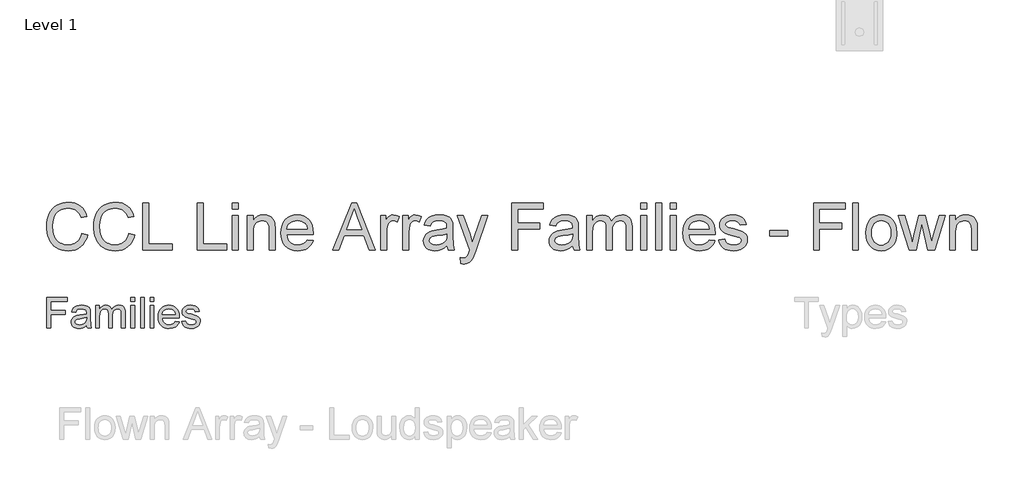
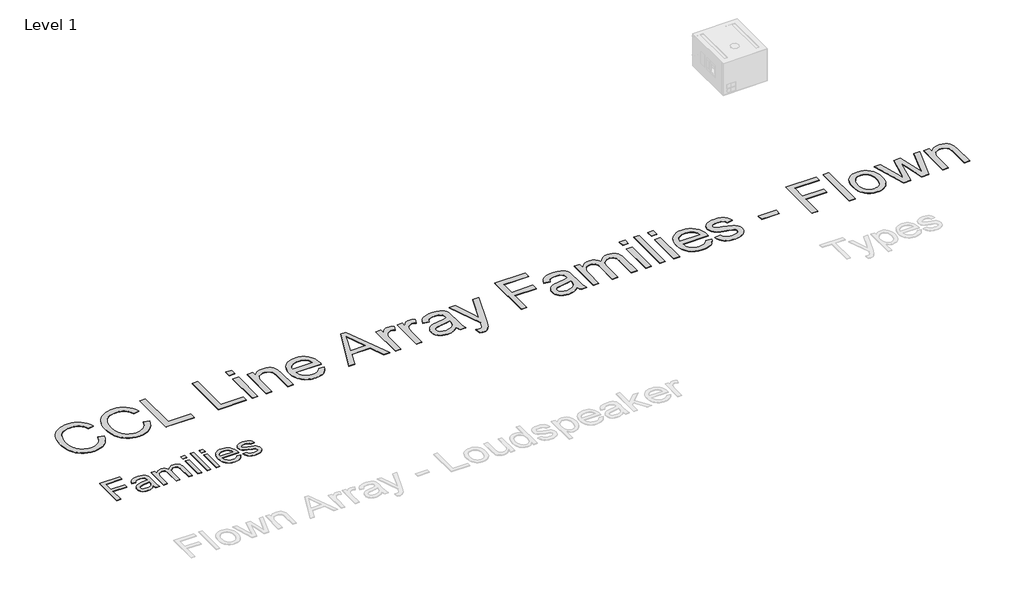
# One storey, part 21 of 31: 2 proxies.
"""IFC4 building model written with IfcOpenShell, lengths in millimetres."""

from ifc_helpers import new_model, si_unit, origin, origin_with_axes, place, context, project, spatial, polyline, outline, extrude, element, save

model = new_model("IFC4")

# Units and contexts
model_context = context("Model", 3, world=origin())
ifc_project = project(units=[si_unit("LENGTHUNIT", "METRE", prefix="MILLI")], contexts=[model_context])

# Site, building, storey
site = spatial("IfcSite", under=ifc_project)
building = spatial("IfcBuilding", under=site)
storey = spatial("IfcBuildingStorey", under=building, Name="Level 1", Elevation=0.0)

# Proxies
placement = place(None, origin())
element("IfcBuildingElementProxy", 1, Name="400mm Arial", ObjectType="400mm Arial", at=placement, inside=storey, context=model_context, shape_type="SweptSolid", body=[
    extrude(outline(polyline([(-21056.720891, 8089.9648601), (-21056.720891, 8481.7224359), (-20793.5087698, 8481.7224359), (-20793.5087698, 8432.7527389), (-21007.7511941, 8432.7527389), (-21007.7511941, 8316.4497086), (-20824.1148304, 8316.4497086), (-20824.1148304, 8267.4800117), (-21007.7511941, 8267.4800117), (-21007.7511941, 8089.9648601), (-21056.720891, 8089.9648601)])), origin_with_axes(), (0.0, 0.0, 1.0), 5.0),
    extrude(outline(polyline([(-20548.660285, 8126.6921329), (-20572.0571836, 8106.6308166), (-20596.1475009, 8093.5036859), (-20621.4811893, 8086.2586575), (-20648.6082016, 8083.843648), (-20670.4120309, 8085.2962404), (-20689.5318522, 8089.6540173), (-20705.9676654, 8096.916979), (-20719.7194706, 8107.0851253), (-20730.5780466, 8119.5128597), (-20738.3341723, 8133.5545855), (-20742.9878477, 8149.2103029), (-20744.5390729, 8166.4800117), (-20742.1957963, 8186.7804378), (-20735.1659668, 8205.2158071), (-20724.3223352, 8220.9970571), (-20710.5376524, 8233.3351253), (-20676.2493001, 8249.4033071), (-20633.879035, 8256.7678904), (-20583.8094327, 8264.5150495), (-20548.9472168, 8273.6012238), (-20548.660285, 8284.5046329), (-20552.0317338, 8306.359273), (-20562.1460804, 8320.658042), (-20584.7658721, 8331.2745192), (-20616.2805501, 8334.813345), (-20645.4519516, 8332.458113), (-20665.8241107, 8325.392417), (-20679.7163929, 8312.3250637), (-20689.4481638, 8291.9648601), (-20738.4178607, 8298.0860723), (-20729.9175056, 8324.8663753), (-20717.2327282, 8345.908042), (-20699.1799346, 8362.0001348), (-20674.5755312, 8373.9317162), (-20644.4835568, 8381.3202105), (-20609.9680501, 8383.783042), (-20576.8632916, 8381.6071423), (-20550.6209857, 8375.0794435), (-20530.8346458, 8365.2639842), (-20517.097785, 8353.2248033), (-20507.9876997, 8338.3402153), (-20502.0816865, 8319.9885344), (-20499.690588, 8277.1400495), (-20499.690588, 8216.2148601), (-20497.2038456, 8131.1395761), (-20487.4481638, 8089.9648601), (-20536.4178607, 8089.9648601), (-20544.2606638, 8106.9894814), (-20548.660285, 8126.6921329)]), holes=[polyline([(-20548.660285, 8224.6315268), (-20581.5618001, 8216.477881), (-20627.6621789, 8209.6154283), (-20669.7933342, 8201.6769814), (-20680.7565208, 8196.2491878), (-20688.8743001, 8188.7650495), (-20693.8956069, 8179.7984302), (-20695.5693759, 8169.9231935), (-20691.9229507, 8155.3614037), (-20680.9836751, 8143.4298223), (-20662.990659, 8135.4674643), (-20638.1830122, 8132.813345), (-20611.8809289, 8135.7424406), (-20588.6394516, 8144.5297276), (-20569.7975956, 8157.4775259), (-20556.6943759, 8172.8881556), (-20550.8840066, 8188.7650495), (-20548.9472168, 8210.7631556), (-20548.660285, 8224.6315268)])]), origin_with_axes(), (0.0, 0.0, 1.0), 5.0),
    extrude(outline(polyline([(-20432.3572547, 8089.9648601), (-20432.3572547, 8377.6618298), (-20383.3875577, 8377.6618298), (-20383.3875577, 8330.3180798), (-20368.658391, 8352.0651206), (-20349.720891, 8369.1016973), (-20327.2206543, 8380.1127058), (-20301.8032774, 8383.783042), (-20274.5686657, 8380.0409728), (-20252.7379365, 8368.8147654), (-20236.4306448, 8350.8456603), (-20225.7663456, 8326.874898), (-20207.9167954, 8351.772211), (-20187.5565918, 8369.556006), (-20164.6857348, 8380.226283), (-20139.3042244, 8383.783042), (-20119.7002057, 8382.3035498), (-20102.4932632, 8377.8650732), (-20087.683397, 8370.4676123), (-20075.2706069, 8360.111167), (-20065.4581365, 8346.6761824), (-20058.4492291, 8330.0431035), (-20054.2438846, 8310.2119305), (-20052.8421032, 8287.1826632), (-20052.8421032, 8089.9648601), (-20101.8118001, 8089.9648601), (-20101.8118001, 8266.1409965), (-20106.3548872, 8307.0287806), (-20112.7391202, 8318.30281), (-20122.8056448, 8327.1618298), (-20135.7534431, 8332.9004662), (-20150.7814971, 8334.813345), (-20177.3107348, 8329.9115931), (-20198.9382206, 8315.2063374), (-20207.3279874, 8303.9263303), (-20213.320678, 8289.6933166), (-20218.1148304, 8252.3682692), (-20218.1148304, 8089.9648601), (-20267.0845274, 8089.9648601), (-20267.0845274, 8271.5927011), (-20269.9179791, 8299.2816215), (-20278.4183342, 8319.032095), (-20293.3746552, 8330.8680325), (-20315.5760047, 8334.813345), (-20334.4417717, 8332.1831367), (-20351.8250577, 8324.2925117), (-20366.1716486, 8311.3327579), (-20375.9273304, 8293.4951632), (-20381.5225009, 8268.7472939), (-20383.3875577, 8235.0567162), (-20383.3875577, 8089.9648601), (-20432.3572547, 8089.9648601)])), origin_with_axes(), (0.0, 0.0, 1.0), 5.0),
    extrude(outline(polyline([(-19979.3875577, 8432.7527389), (-19979.3875577, 8481.7224359), (-19930.4178607, 8481.7224359), (-19930.4178607, 8432.7527389), (-19979.3875577, 8432.7527389)])), origin_with_axes(), (0.0, 0.0, 1.0), 5.0),
    extrude(outline(polyline([(-19979.3875577, 8089.9648601), (-19979.3875577, 8377.6618298), (-19930.4178607, 8377.6618298), (-19930.4178607, 8089.9648601), (-19979.3875577, 8089.9648601)])), origin_with_axes(), (0.0, 0.0, 1.0), 5.0),
    extrude(outline(polyline([(-19856.9633153, 8089.9648601), (-19856.9633153, 8481.7224359), (-19807.9936183, 8481.7224359), (-19807.9936183, 8089.9648601), (-19856.9633153, 8089.9648601)])), origin_with_axes(), (0.0, 0.0, 1.0), 5.0),
    extrude(outline(polyline([(-19734.5390729, 8432.7527389), (-19734.5390729, 8481.7224359), (-19685.5693759, 8481.7224359), (-19685.5693759, 8432.7527389), (-19734.5390729, 8432.7527389)])), origin_with_axes(), (0.0, 0.0, 1.0), 5.0),
    extrude(outline(polyline([(-19734.5390729, 8089.9648601), (-19734.5390729, 8377.6618298), (-19685.5693759, 8377.6618298), (-19685.5693759, 8089.9648601), (-19734.5390729, 8089.9648601)])), origin_with_axes(), (0.0, 0.0, 1.0), 5.0),
    extrude(outline(polyline([(-19410.6886941, 8175.6618298), (-19362.6754365, 8169.5406177), (-19370.0370309, 8150.3102082), (-19379.975034, 8133.3632976), (-19392.4894457, 8118.6998862), (-19407.580266, 8106.3199738), (-19425.0920736, 8096.4865813), (-19444.8694469, 8089.4627295), (-19491.220891, 8083.843648), (-19521.605775, 8086.2676241), (-19548.6789876, 8093.5395524), (-19572.4405288, 8105.6594328), (-19592.8903986, 8122.6272654), (-19609.3351784, 8143.9708083), (-19621.0814497, 8169.2178194), (-19628.1292125, 8198.3682988), (-19630.4784668, 8231.4222465), (-19628.1053015, 8265.5970216), (-19620.9858058, 8295.7188848), (-19609.1199796, 8321.787836), (-19592.5078229, 8343.8038753), (-19572.1117528, 8361.2947607), (-19548.8941865, 8373.7882503), (-19522.855124, 8381.284344), (-19493.9945653, 8383.783042), (-19466.0635461, 8381.2903218), (-19440.8045795, 8373.8121613), (-19418.2176654, 8361.3485604), (-19398.3028039, 8343.8995192), (-19382.0463231, 8321.9313019), (-19370.4345511, 8295.9101726), (-19363.4674879, 8265.8361315), (-19361.1451335, 8231.7091783), (-19361.4320653, 8218.5103147), (-19581.5087698, 8218.5103147), (-19578.6723292, 8198.9690623), (-19573.0323257, 8181.8547749), (-19564.5887592, 8167.1674525), (-19553.3416297, 8154.907095), (-19524.9234242, 8138.3367825), (-19490.2644516, 8132.813345), (-19464.2014782, 8135.3718204), (-19442.2511941, 8143.0472465), (-19424.4135994, 8156.3178431), (-19410.6886941, 8175.6618298)]), holes=[polyline([(-19581.5087698, 8267.4800117), (-19410.1148304, 8267.4800117), (-19416.7381732, 8293.3516973), (-19429.721838, 8311.8587995), (-19443.076123, 8321.9014132), (-19458.2715539, 8329.0747086), (-19494.1858532, 8334.813345), (-19527.1949677, 8330.2343914), (-19554.4893569, 8316.4975306), (-19573.4627234, 8295.0852437), (-19581.5087698, 8267.4800117)])]), origin_with_axes(), (0.0, 0.0, 1.0), 5.0),
    extrude(outline(polyline([(-19330.5390729, 8175.6618298), (-19281.5693759, 8181.783042), (-19273.8461278, 8160.8370192), (-19258.9017622, 8145.438345), (-19236.6406354, 8135.969595), (-19206.9671032, 8132.813345), (-19177.6522357, 8135.7065742), (-19157.0409668, 8144.3862617), (-19144.8463645, 8156.9634397), (-19140.7814971, 8171.5491404), (-19144.8702755, 8184.0306745), (-19157.1366107, 8193.5472465), (-19207.5409668, 8207.5112617), (-19281.2824441, 8231.4700685), (-19299.9449677, 8243.5092493), (-19313.4666297, 8259.4459208), (-19321.680053, 8278.2638658), (-19324.4178607, 8298.9468677), (-19322.2180501, 8317.9202342), (-19315.6186183, 8335.4350306), (-19305.2173399, 8350.7978384), (-19291.6119895, 8363.3152389), (-19260.4798872, 8377.8052958), (-19218.3487319, 8383.783042), (-19186.4753891, 8381.379988), (-19158.7625577, 8374.1708261), (-19136.4775198, 8362.8609302), (-19120.8875577, 8348.1556745), (-19110.5580122, 8328.9671092), (-19104.0542244, 8304.2072844), (-19153.0239213, 8298.0860723), (-19159.2049109, 8313.496702), (-19171.4353797, 8325.1054851), (-19189.8348825, 8332.38638), (-19214.5229744, 8334.813345), (-19242.6422925, 8332.4939795), (-19261.3885047, 8325.5358829), (-19271.933249, 8315.4932692), (-19275.4481638, 8303.9203526), (-19269.6138835, 8289.6694056), (-19251.345891, 8278.8616404), (-19209.1669138, 8268.4364511), (-19137.2904933, 8245.3862617), (-19118.3051713, 8234.3632976), (-19103.9107585, 8219.2754662), (-19094.8365397, 8200.0749454), (-19091.8118001, 8176.7139132), (-19095.3625814, 8152.5638185), (-19106.0149251, 8129.8483829), (-19123.3623446, 8110.3489747), (-19146.9983532, 8095.8469624), (-19175.5480691, 8086.8444766), (-19207.6366107, 8083.843648), (-19233.9924938, 8085.2902626), (-19257.0127944, 8089.6301064), (-19276.6975127, 8096.8631793), (-19293.0466486, 8106.9894814), (-19306.4009336, 8119.9611906), (-19317.1010994, 8135.7304851), (-19325.1471458, 8154.2973649), (-19330.5390729, 8175.6618298)])), origin_with_axes(), (0.0, 0.0, 1.0), 5.0),
])
element("IfcBuildingElementProxy", 2, Name="600mm Arial", ObjectType="600mm Arial", at=placement, inside=storey, context=model_context, shape_type="SweptSolid", body=[
    extrude(outline(polyline([(-20609.8448639, 9304.2193341), (-20534.5026313, 9284.7951648), (-20549.4110491, 9237.9407942), (-20569.2674798, 9197.0001266), (-20594.0719234, 9161.9731622), (-20623.8243797, 9132.8599008), (-20657.8534643, 9109.9730422), (-20695.4877924, 9093.625286), (-20736.727364, 9083.8166323), (-20781.5721793, 9080.5470811), (-20827.5160419, 9083.0210875), (-20868.9625472, 9090.4431067), (-20905.9116951, 9102.8131388), (-20938.3634856, 9120.1311837), (-20966.7639756, 9142.1397241), (-20991.5592221, 9168.5812425), (-21012.749225, 9199.455739), (-21030.3339844, 9234.7632134), (-21044.1433548, 9272.9769557), (-21054.0071908, 9312.5702554), (-21059.9254924, 9353.5431126), (-21061.8982596, 9395.8955273), (-21059.667975, 9441.3381508), (-21052.9771212, 9483.782536), (-21041.8256982, 9523.2286829), (-21026.213706, 9559.6765916), (-21006.4906326, 9592.5238552), (-20983.0059657, 9621.1680671), (-20955.7597054, 9645.6092271), (-20924.7518518, 9665.8473354), (-20891.0354669, 9681.716845), (-20855.6636131, 9693.0522089), (-20818.6362903, 9699.8534273), (-20779.9534985, 9702.1205001), (-20736.8607213, 9699.1866412), (-20697.3455965, 9690.3850645), (-20661.4081241, 9675.7157699), (-20629.0483041, 9655.1787575), (-20600.7995653, 9629.3166533), (-20577.1953368, 9598.6720831), (-20558.2356185, 9563.2450469), (-20543.9204104, 9523.0355449), (-20619.262643, 9505.0829035), (-20631.1268373, 9534.7111997), (-20645.3822646, 9560.0260795), (-20662.0289249, 9581.0275429), (-20681.0668182, 9597.7155899), (-20702.606309, 9610.4305113), (-20726.757762, 9619.5125981), (-20753.5211771, 9624.9618502), (-20782.8965544, 9626.7782675), (-20816.6957127, 9624.7641136), (-20847.6069974, 9618.7216518), (-20875.6304084, 9608.6508822), (-20900.7659457, 9594.5518047), (-20922.6963111, 9577.0590159), (-20941.1042065, 9556.807112), (-20955.9896317, 9533.7960932), (-20967.3525868, 9508.0259595), (-20981.7551669, 9452.8804484), (-20986.556027, 9396.0426801), (-20980.8722501, 9326.4394066), (-20973.7675291, 9295.1694371), (-20963.8209197, 9266.2539122), (-20950.8714734, 9240.2676478), (-20934.758242, 9217.7854594), (-20915.4812255, 9198.8073469), (-20893.0404238, 9183.3333105), (-20868.5256873, 9171.3265619), (-20843.0268665, 9162.7503129), (-20816.5439614, 9157.6045635), (-20789.076972, 9155.8893137), (-20756.3216788, 9158.2253643), (-20726.1875449, 9165.2335164), (-20698.6745702, 9176.9137697), (-20673.7827547, 9193.2661244), (-20652.1007096, 9214.217004), (-20634.2170461, 9239.6928322), (-20620.1317642, 9269.6936089), (-20609.8448639, 9304.2193341)])), origin_with_axes(), (0.0, 0.0, 1.0), 5.0),
    extrude(outline(polyline([(-20007.107003, 9304.2193341), (-19931.7647704, 9284.7951648), (-19946.6731882, 9237.9407942), (-19966.5296189, 9197.0001266), (-19991.3340625, 9161.9731622), (-20021.0865188, 9132.8599008), (-20055.1156034, 9109.9730422), (-20092.7499315, 9093.625286), (-20133.9895031, 9083.8166323), (-20178.8343184, 9080.5470811), (-20224.778181, 9083.0210875), (-20266.2246863, 9090.4431067), (-20303.1738342, 9102.8131388), (-20335.6256247, 9120.1311837), (-20364.0261147, 9142.1397241), (-20388.8213612, 9168.5812425), (-20410.0113641, 9199.455739), (-20427.5961235, 9234.7632134), (-20441.4054939, 9272.9769557), (-20451.2693299, 9312.5702554), (-20457.1876315, 9353.5431126), (-20459.1603987, 9395.8955273), (-20456.9301141, 9441.3381508), (-20450.2392603, 9483.782536), (-20439.0878373, 9523.2286829), (-20423.4758451, 9559.6765916), (-20403.7527717, 9592.5238552), (-20380.2681048, 9621.1680671), (-20353.0218445, 9645.6092271), (-20322.0139909, 9665.8473354), (-20288.297606, 9681.716845), (-20252.9257522, 9693.0522089), (-20215.8984294, 9699.8534273), (-20177.2156376, 9702.1205001), (-20134.1228604, 9699.1866412), (-20094.6077356, 9690.3850645), (-20058.6702632, 9675.7157699), (-20026.3104432, 9655.1787575), (-19998.0617044, 9629.3166533), (-19974.4574759, 9598.6720831), (-19955.4977576, 9563.2450469), (-19941.1825495, 9523.0355449), (-20016.5247821, 9505.0829035), (-20028.3889764, 9534.7111997), (-20042.6444037, 9560.0260795), (-20059.291064, 9581.0275429), (-20078.3289573, 9597.7155899), (-20099.8684481, 9610.4305113), (-20124.0199011, 9619.5125981), (-20150.7833162, 9624.9618502), (-20180.1586935, 9626.7782675), (-20213.9578518, 9624.7641136), (-20244.8691365, 9618.7216518), (-20272.8925475, 9608.6508822), (-20298.0280848, 9594.5518047), (-20319.9584502, 9577.0590159), (-20338.3663456, 9556.807112), (-20353.2517708, 9533.7960932), (-20364.6147259, 9508.0259595), (-20379.017306, 9452.8804484), (-20383.8181661, 9396.0426801), (-20378.1343892, 9326.4394066), (-20371.0296682, 9295.1694371), (-20361.0830588, 9266.2539122), (-20348.1336125, 9240.2676478), (-20332.0203811, 9217.7854594), (-20312.7433646, 9198.8073469), (-20290.3025629, 9183.3333105), (-20265.7878264, 9171.3265619), (-20240.2890056, 9162.7503129), (-20213.8061005, 9157.6045635), (-20186.3391111, 9155.8893137), (-20153.5838179, 9158.2253643), (-20123.449684, 9165.2335164), (-20095.9367093, 9176.9137697), (-20071.0448938, 9193.2661244), (-20049.3628487, 9214.217004), (-20031.4791852, 9239.6928322), (-20017.3939033, 9269.6936089), (-20007.107003, 9304.2193341)])), origin_with_axes(), (0.0, 0.0, 1.0), 5.0),
    extrude(outline(polyline([(-19828.1692006, 9089.9648601), (-19828.1692006, 9692.702721), (-19752.8269679, 9692.702721), (-19752.8269679, 9165.3070928), (-19451.4580375, 9165.3070928), (-19451.4580375, 9089.9648601), (-19828.1692006, 9089.9648601)])), origin_with_axes(), (0.0, 0.0, 1.0), 5.0),
    extrude(outline(polyline([(-19131.2535489, 9089.9648601), (-19131.2535489, 9692.702721), (-19055.9113163, 9692.702721), (-19055.9113163, 9165.3070928), (-18754.5423858, 9165.3070928), (-18754.5423858, 9089.9648601), (-19131.2535489, 9089.9648601)])), origin_with_axes(), (0.0, 0.0, 1.0), 5.0),
    extrude(outline(polyline([(-18679.2001532, 9617.3604884), (-18679.2001532, 9692.702721), (-18603.8579206, 9692.702721), (-18603.8579206, 9617.3604884), (-18679.2001532, 9617.3604884)])), origin_with_axes(), (0.0, 0.0, 1.0), 5.0),
    extrude(outline(polyline([(-18679.2001532, 9089.9648601), (-18679.2001532, 9532.6004767), (-18603.8579206, 9532.6004767), (-18603.8579206, 9089.9648601), (-18679.2001532, 9089.9648601)])), origin_with_axes(), (0.0, 0.0, 1.0), 5.0),
    extrude(outline(polyline([(-18490.8445717, 9089.9648601), (-18490.8445717, 9532.6004767), (-18415.5023391, 9532.6004767), (-18415.5023391, 9470.7963016), (-18389.3275351, 9501.9559065), (-18357.8920186, 9524.2127673), (-18321.1957896, 9537.5668837), (-18279.2388481, 9542.0182558), (-18242.1011606, 9538.4314064), (-18208.0904702, 9527.670858), (-18179.7267684, 9511.07938), (-18159.5300468, 9489.9997417), (-18145.8264425, 9464.4871253), (-18136.9420923, 9434.5967132), (-18132.9689668, 9361.7560782), (-18132.9689668, 9089.9648601), (-18208.3111994, 9089.9648601), (-18208.3111994, 9351.6025351), (-18210.4817032, 9390.5612384), (-18216.9932145, 9418.2627526), (-18229.0045616, 9438.1099863), (-18247.6745729, 9453.5058478), (-18271.6052967, 9463.3834793), (-18299.3987814, 9466.6760232), (-18322.276443, 9464.8274162), (-18343.5262267, 9459.2815951), (-18363.1481326, 9450.03856), (-18381.1421607, 9437.0983108), (-18396.1747387, 9418.9893196), (-18406.9122945, 9394.2400584), (-18413.3548279, 9362.8505271), (-18415.5023391, 9324.8207259), (-18415.5023391, 9089.9648601), (-18490.8445717, 9089.9648601)])), origin_with_axes(), (0.0, 0.0, 1.0), 5.0),
    extrude(outline(polyline([(-17719.4696042, 9221.8137672), (-17645.5988996, 9212.3959881), (-17656.9250665, 9182.8090787), (-17672.2151619, 9156.7354423), (-17691.4691858, 9134.1750789), (-17714.6871383, 9115.1279886), (-17741.6298959, 9099.9988416), (-17772.0583354, 9089.192308), (-17805.9724568, 9082.7083878), (-17843.3722602, 9080.5470811), (-17890.1208647, 9084.2764848), (-17931.7743036, 9095.464696), (-17968.3325769, 9114.1117146), (-17999.7956845, 9140.2175407), (-18025.0967687, 9173.0556073), (-18043.1689718, 9211.8993474), (-18054.0122936, 9256.7487612), (-18057.6267342, 9307.6038485), (-18053.9755054, 9360.1833827), (-18043.021819, 9406.527317), (-18024.7656749, 9446.6356515), (-17999.2070733, 9480.5083862), (-17967.8267391, 9507.4189542), (-17932.1053974, 9526.6407884), (-17892.0430481, 9538.173889), (-17847.6396913, 9542.0182558), (-17804.6664758, 9538.183086), (-17765.8043415, 9526.6775766), (-17731.0532885, 9507.5017276), (-17700.4133168, 9480.655539), (-17675.4019397, 9446.8563807), (-17657.5366703, 9406.8216226), (-17646.8175087, 9360.5512646), (-17643.2444548, 9308.0453069), (-17643.6859132, 9287.7382208), (-17982.2845016, 9287.7382208), (-17977.9205014, 9257.6730647), (-17969.2430848, 9231.3419109), (-17956.2522519, 9208.7447593), (-17938.9480025, 9189.88161), (-17918.28683, 9175.0099804), (-17895.2252274, 9164.3873878), (-17869.7631948, 9158.0138322), (-17841.9007322, 9155.8893137), (-17801.8015947, 9159.825651), (-17768.0300276, 9171.6346631), (-17740.5860307, 9192.0521138), (-17719.4696042, 9221.8137672)]), holes=[polyline([(-17982.2845016, 9363.0804534), (-17718.5866874, 9363.0804534), (-17728.7770187, 9402.8852852), (-17737.5418072, 9418.5386641), (-17748.753011, 9431.3593517), (-17769.2992204, 9446.8103955), (-17792.6781212, 9457.8468553), (-17818.8897134, 9464.4687312), (-17847.9339969, 9466.6760232), (-17874.4260991, 9464.9147882), (-17898.7201063, 9459.631083), (-17920.8160187, 9450.8249077), (-17940.7138361, 9438.4962624), (-17957.4110802, 9423.215364), (-17969.9052724, 9405.5524297), (-17978.1964129, 9385.5074595), (-17982.2845016, 9363.0804534)])]), origin_with_axes(), (0.0, 0.0, 1.0), 5.0),
    extrude(outline(polyline([(-17393.0846981, 9089.9648601), (-17152.4898732, 9692.702721), (-17088.3312533, 9692.702721), (-16847.8835812, 9089.9648601), (-16927.493245, 9089.9648601), (-16996.3607545, 9278.3204417), (-17244.7546776, 9278.3204417), (-17313.6221871, 9089.9648601), (-17393.0846981, 9089.9648601)]), holes=[polyline([(-17217.0899516, 9353.6626743), (-17023.8783277, 9353.6626743), (-17078.324863, 9501.8455419), (-17120.557716, 9617.3604884), (-17158.0816796, 9514.7949882), (-17217.0899516, 9353.6626743)])]), origin_with_axes(), (0.0, 0.0, 1.0), 5.0),
    extrude(outline(polyline([(-16776.8087798, 9089.9648601), (-16776.8087798, 9532.6004767), (-16710.8843262, 9532.6004767), (-16710.8843262, 9467.1174816), (-16686.5305381, 9505.0829035), (-16664.0897364, 9527.4501288), (-16641.5753583, 9538.3762241), (-16617.0008411, 9542.0182558), (-16579.4768775, 9536.2057203), (-16541.3643028, 9518.7681137), (-16566.5274313, 9451.2249794), (-16593.014935, 9462.8132623), (-16619.5024386, 9466.6760232), (-16641.9984226, 9462.9604151), (-16662.1031737, 9451.8135906), (-16678.3451637, 9434.0816784), (-16689.2528649, 9410.6108071), (-16698.4131266, 9368.5251069), (-16701.4665471, 9322.6134339), (-16701.4665471, 9089.9648601), (-16776.8087798, 9089.9648601)])), origin_with_axes(), (0.0, 0.0, 1.0), 5.0),
    extrude(outline(polyline([(-16494.2754075, 9089.9648601), (-16494.2754075, 9532.6004767), (-16428.3509539, 9532.6004767), (-16428.3509539, 9467.1174816), (-16403.9971658, 9505.0829035), (-16381.5563641, 9527.4501288), (-16359.041986, 9538.3762241), (-16334.4674688, 9542.0182558), (-16296.9435052, 9536.2057203), (-16258.8309305, 9518.7681137), (-16283.994059, 9451.2249794), (-16310.4815627, 9462.8132623), (-16336.9690663, 9466.6760232), (-16359.4650503, 9462.9604151), (-16379.5698014, 9451.8135906), (-16395.8117915, 9434.0816784), (-16406.7194926, 9410.6108071), (-16415.8797543, 9368.5251069), (-16418.9331748, 9322.6134339), (-16418.9331748, 9089.9648601), (-16494.2754075, 9089.9648601)])), origin_with_axes(), (0.0, 0.0, 1.0), 5.0),
    extrude(outline(polyline([(-15929.2086629, 9146.4715346), (-15965.2059161, 9115.6062352), (-16002.2700271, 9095.4095137), (-16041.2471245, 9084.2626892), (-16082.9833369, 9080.5470811), (-16116.5295763, 9082.7819642), (-16145.9463403, 9089.4866136), (-16171.233629, 9100.6610292), (-16192.3914422, 9116.305211), (-16209.0978833, 9135.4258777), (-16221.0310555, 9157.0297479), (-16228.1909589, 9181.1168215), (-16230.5775933, 9207.6870986), (-16226.9723498, 9238.92028), (-16216.1566191, 9267.2839818), (-16199.4731706, 9291.5641935), (-16178.2647736, 9310.5469045), (-16153.3407684, 9324.8943023), (-16125.5104955, 9335.2685745), (-16060.3218059, 9346.59934), (-15983.2873162, 9358.5187166), (-15929.6501213, 9372.4982324), (-15929.2086629, 9389.2736514), (-15934.395799, 9422.8980658), (-15940.8797192, 9435.3508713), (-15949.9572074, 9444.8974091), (-15965.6473745, 9454.4255528), (-15984.7588441, 9461.2313697), (-16033.2456911, 9466.6760232), (-16078.1272945, 9463.0523856), (-16109.4708405, 9452.1814726), (-16130.8447844, 9432.0767216), (-16145.8175816, 9400.7515697), (-16221.1598142, 9410.1693487), (-16208.0816093, 9451.3721322), (-16188.5654695, 9483.7457478), (-16160.7903788, 9508.5042061), (-16122.9353215, 9526.8615176), (-16076.6373724, 9538.2290713), (-16023.5336064, 9542.0182558), (-15972.6003442, 9538.6705297), (-15932.2252952, 9528.6273512), (-15901.7830601, 9513.5257953), (-15880.6482395, 9495.0029368), (-15866.6319355, 9472.1022826), (-15857.5452502, 9443.8673395), (-15853.8664303, 9377.942886), (-15853.8664303, 9284.2065536), (-15850.0404575, 9153.3141397), (-15844.3750748, 9120.9589182), (-15835.0308721, 9089.9648601), (-15910.3731047, 9089.9648601), (-15922.4396342, 9116.1580582), (-15929.2086629, 9146.4715346)]), holes=[polyline([(-15929.2086629, 9297.1559998), (-15979.8292254, 9284.6112238), (-16050.7568741, 9274.0530105), (-16115.5776816, 9261.8393283), (-16132.4450711, 9253.488407), (-16144.9346648, 9241.9737006), (-16152.6601867, 9228.1781257), (-16155.2353607, 9212.9845993), (-16149.6251603, 9190.5805858), (-16132.794559, 9172.2232743), (-16105.1114389, 9159.9728038), (-16066.9436819, 9155.8893137), (-16026.4766624, 9160.3958681), (-15990.7185325, 9173.9155314), (-15961.7294312, 9193.8363415), (-15941.5694979, 9217.5463361), (-15932.6299654, 9241.9737006), (-15929.6501213, 9275.8188441), (-15929.2086629, 9297.1559998)])]), origin_with_axes(), (0.0, 0.0, 1.0), 5.0),
    extrude(outline(polyline([(-15750.2708604, 8920.4448368), (-15759.6886395, 8992.9911662), (-15721.428912, 8986.3692903), (-15701.3057669, 8988.4478236), (-15685.6707821, 8994.6834234), (-15673.493888, 9004.6346314), (-15663.7450151, 9017.8599891), (-15643.1436234, 9073.336594), (-15637.2575115, 9091.5835409), (-15797.3597558, 9532.6004767), (-15718.0443976, 9532.6004767), (-15632.9900804, 9286.7081512), (-15603.4123679, 9188.4100821), (-15573.8346555, 9275.3773857), (-15486.5730463, 9532.6004767), (-15407.8462993, 9532.6004767), (-15561.9152789, 9079.3698587), (-15601.94084, 8981.0717896), (-15622.4318671, 8949.6914554), (-15645.645221, 8927.9496295), (-15672.574183, 8915.2577006), (-15704.2120346, 8911.0270577), (-15726.1010133, 8913.3815025), (-15750.2708604, 8920.4448368)])), origin_with_axes(), (0.0, 0.0, 1.0), 5.0),
    extrude(outline(polyline([(-15100.4441041, 9089.9648601), (-15100.4441041, 9692.702721), (-14695.4796038, 9692.702721), (-14695.4796038, 9617.3604884), (-15025.1018715, 9617.3604884), (-15025.1018715, 9438.422686), (-14742.5684992, 9438.422686), (-14742.5684992, 9363.0804534), (-15025.1018715, 9363.0804534), (-15025.1018715, 9089.9648601), (-15100.4441041, 9089.9648601)])), origin_with_axes(), (0.0, 0.0, 1.0), 5.0),
    extrude(outline(polyline([(-14318.7684408, 9146.4715346), (-14354.765694, 9115.6062352), (-14391.829805, 9095.4095137), (-14430.8069024, 9084.2626892), (-14472.5431148, 9080.5470811), (-14506.0893542, 9082.7819642), (-14535.5061182, 9089.4866136), (-14560.7934069, 9100.6610292), (-14581.9512201, 9116.305211), (-14598.6576612, 9135.4258777), (-14610.5908335, 9157.0297479), (-14617.7507368, 9181.1168215), (-14620.1373712, 9207.6870986), (-14616.5321277, 9238.92028), (-14605.716397, 9267.2839818), (-14589.0329485, 9291.5641935), (-14567.8245515, 9310.5469045), (-14542.9005463, 9324.8943023), (-14515.0702734, 9335.2685745), (-14449.8815839, 9346.59934), (-14372.8470941, 9358.5187166), (-14319.2098992, 9372.4982324), (-14318.7684408, 9389.2736514), (-14323.9555769, 9422.8980658), (-14330.4394971, 9435.3508713), (-14339.5169853, 9444.8974091), (-14355.2071524, 9454.4255528), (-14374.3186221, 9461.2313697), (-14422.805469, 9466.6760232), (-14467.6870724, 9463.0523856), (-14499.0306184, 9452.1814726), (-14520.4045623, 9432.0767216), (-14535.3773595, 9400.7515697), (-14610.7195922, 9410.1693487), (-14597.6413872, 9451.3721322), (-14578.1252474, 9483.7457478), (-14550.3501567, 9508.5042061), (-14512.4950994, 9526.8615176), (-14466.1971503, 9538.2290713), (-14413.0933843, 9542.0182558), (-14362.1601221, 9538.6705297), (-14321.7850731, 9528.6273512), (-14291.342838, 9513.5257953), (-14270.2080174, 9495.0029368), (-14256.1917134, 9472.1022826), (-14247.1050281, 9443.8673395), (-14243.4262082, 9377.942886), (-14243.4262082, 9284.2065536), (-14239.6002354, 9153.3141397), (-14233.9348527, 9120.9589182), (-14224.59065, 9089.9648601), (-14299.9328826, 9089.9648601), (-14311.9994121, 9116.1580582), (-14318.7684408, 9146.4715346)]), holes=[polyline([(-14318.7684408, 9297.1559998), (-14369.3890033, 9284.6112238), (-14440.316652, 9274.0530105), (-14505.1374595, 9261.8393283), (-14522.004849, 9253.488407), (-14534.4944428, 9241.9737006), (-14542.2199647, 9228.1781257), (-14544.7951386, 9212.9845993), (-14539.1849382, 9190.5805858), (-14522.3543369, 9172.2232743), (-14494.6712168, 9159.9728038), (-14456.5034598, 9155.8893137), (-14416.0364403, 9160.3958681), (-14380.2783104, 9173.9155314), (-14351.2892092, 9193.8363415), (-14331.1292758, 9217.5463361), (-14322.1897433, 9241.9737006), (-14319.2098992, 9275.8188441), (-14318.7684408, 9297.1559998)])]), origin_with_axes(), (0.0, 0.0, 1.0), 5.0),
    extrude(outline(polyline([(-14139.8306383, 9089.9648601), (-14139.8306383, 9532.6004767), (-14064.4884057, 9532.6004767), (-14064.4884057, 9459.7598417), (-14041.8268748, 9493.2187092), (-14012.6906208, 9519.4303013), (-13978.072925, 9536.3712672), (-13938.967069, 9542.0182558), (-13897.0653097, 9536.2609026), (-13879.23223, 9529.0642111), (-13863.4776836, 9518.9888429), (-13838.3881315, 9491.342511), (-13821.9805945, 9454.462341), (-13794.5182036, 9492.7680537), (-13763.1930517, 9520.1292771), (-13728.0051388, 9536.5460111), (-13688.954465, 9542.0182558), (-13658.79274, 9539.741986), (-13632.3190319, 9532.9131764), (-13609.5333408, 9521.5318272), (-13590.4356667, 9505.5979383), (-13575.3387094, 9484.9275687), (-13564.5551684, 9459.3367774), (-13558.0850438, 9428.8255644), (-13555.9283356, 9393.3939298), (-13555.9283356, 9089.9648601), (-13631.2705682, 9089.9648601), (-13631.2705682, 9361.0203142), (-13633.0180077, 9398.59946), (-13638.2603261, 9423.9281354), (-13648.0827754, 9441.2737714), (-13663.5706074, 9454.9037994), (-13683.4914174, 9463.7329672), (-13706.6128008, 9466.6760232), (-13727.9637521, 9464.790628), (-13747.4293082, 9459.1344423), (-13765.009469, 9449.7074662), (-13780.7042346, 9436.5096996), (-13793.6122941, 9419.1548665), (-13802.8323366, 9397.2566907), (-13808.3643621, 9370.8151723), (-13810.2083707, 9339.8303113), (-13810.2083707, 9089.9648601), (-13885.5506033, 9089.9648601), (-13885.5506033, 9369.4080237), (-13889.9100049, 9412.0087587), (-13895.359257, 9428.7289954), (-13902.9882098, 9442.3958115), (-13913.1003662, 9453.0184041), (-13925.9992286, 9460.6059703), (-13941.6847972, 9465.15851), (-13960.1570719, 9466.6760232), (-13989.1829613, 9462.6293213), (-14015.9279824, 9450.4892154), (-14038.0009021, 9430.5500113), (-14053.0104875, 9403.1060144), (-14061.6189262, 9365.0302279), (-14064.4884057, 9313.1956548), (-14064.4884057, 9089.9648601), (-14139.8306383, 9089.9648601)])), origin_with_axes(), (0.0, 0.0, 1.0), 5.0),
    extrude(outline(polyline([(-13442.9149867, 9089.9648601), (-13442.9149867, 9532.6004767), (-13367.5727541, 9532.6004767), (-13367.5727541, 9089.9648601), (-13442.9149867, 9089.9648601)])), origin_with_axes(), (0.0, 0.0, 1.0), 5.0),
    extrude(outline(polyline([(-13442.9149867, 9617.3604884), (-13442.9149867, 9692.702721), (-13367.5727541, 9692.702721), (-13367.5727541, 9617.3604884), (-13442.9149867, 9617.3604884)])), origin_with_axes(), (0.0, 0.0, 1.0), 5.0),
    extrude(outline(polyline([(-13254.5594051, 9089.9648601), (-13254.5594051, 9692.702721), (-13179.2171725, 9692.702721), (-13179.2171725, 9089.9648601), (-13254.5594051, 9089.9648601)])), origin_with_axes(), (0.0, 0.0, 1.0), 5.0),
    extrude(outline(polyline([(-13066.2038236, 9617.3604884), (-13066.2038236, 9692.702721), (-12990.861591, 9692.702721), (-12990.861591, 9617.3604884), (-13066.2038236, 9617.3604884)])), origin_with_axes(), (0.0, 0.0, 1.0), 5.0),
    extrude(outline(polyline([(-13066.2038236, 9089.9648601), (-13066.2038236, 9532.6004767), (-12990.861591, 9532.6004767), (-12990.861591, 9089.9648601), (-13066.2038236, 9089.9648601)])), origin_with_axes(), (0.0, 0.0, 1.0), 5.0),
    extrude(outline(polyline([(-12567.9444493, 9221.8137672), (-12494.0737447, 9212.3959881), (-12505.3999116, 9182.8090787), (-12520.6900071, 9156.7354423), (-12539.944031, 9134.1750789), (-12563.1619834, 9115.1279886), (-12590.104741, 9099.9988416), (-12620.5331805, 9089.192308), (-12654.447302, 9082.7083878), (-12691.8471053, 9080.5470811), (-12738.5957098, 9084.2764848), (-12780.2491488, 9095.464696), (-12816.807422, 9114.1117146), (-12848.2705297, 9140.2175407), (-12873.5716139, 9173.0556073), (-12891.6438169, 9211.8993474), (-12902.4871387, 9256.7487612), (-12906.1015793, 9307.6038485), (-12902.4503505, 9360.1833827), (-12891.4966641, 9406.527317), (-12873.2405201, 9446.6356515), (-12847.6819185, 9480.5083862), (-12816.3015843, 9507.4189542), (-12780.5802425, 9526.6407884), (-12740.5178933, 9538.173889), (-12696.1145365, 9542.0182558), (-12653.1413209, 9538.183086), (-12614.2791866, 9526.6775766), (-12579.5281337, 9507.5017276), (-12548.888162, 9480.655539), (-12523.8767848, 9446.8563807), (-12506.0115154, 9406.8216226), (-12495.2923538, 9360.5512646), (-12491.7192999, 9308.0453069), (-12492.1607583, 9287.7382208), (-12830.7593467, 9287.7382208), (-12826.3953465, 9257.6730647), (-12817.71793, 9231.3419109), (-12804.727097, 9208.7447593), (-12787.4228477, 9189.88161), (-12766.7616751, 9175.0099804), (-12743.7000725, 9164.3873878), (-12718.2380399, 9158.0138322), (-12690.3755773, 9155.8893137), (-12650.2764399, 9159.825651), (-12616.5048727, 9171.6346631), (-12589.0608759, 9192.0521138), (-12567.9444493, 9221.8137672)]), holes=[polyline([(-12830.7593467, 9363.0804534), (-12567.0615325, 9363.0804534), (-12577.2518638, 9402.8852852), (-12586.0166524, 9418.5386641), (-12597.2278562, 9431.3593517), (-12617.7740656, 9446.8103955), (-12641.1529664, 9457.8468553), (-12667.3645585, 9464.4687312), (-12696.4088421, 9466.6760232), (-12722.9009442, 9464.9147882), (-12747.1949515, 9459.631083), (-12769.2908638, 9450.8249077), (-12789.1886812, 9438.4962624), (-12805.8859253, 9423.215364), (-12818.3801176, 9405.5524297), (-12826.671258, 9385.5074595), (-12830.7593467, 9363.0804534)])]), origin_with_axes(), (0.0, 0.0, 1.0), 5.0),
    extrude(outline(polyline([(-12444.6304046, 9221.8137672), (-12369.2881719, 9231.2315463), (-12364.7356323, 9214.0514571), (-12357.4055835, 9199.0050835), (-12347.2980257, 9186.0924255), (-12334.4129588, 9175.313483), (-12318.7135947, 9166.8154089), (-12300.163145, 9160.745356), (-12254.5089894, 9155.8893137), (-12209.4066568, 9160.3406858), (-12191.8770798, 9165.904901), (-12177.6952289, 9173.6948022), (-12158.9332471, 9193.0453952), (-12154.2427517, 9203.87952), (-12152.6792532, 9215.4861969), (-12154.2519487, 9225.6581341), (-12158.9700353, 9234.689637), (-12177.8423817, 9249.3313405), (-12206.0589307, 9258.8962723), (-12255.3919062, 9270.815649), (-12324.1490511, 9290.6996708), (-12368.8467135, 9307.6774249), (-12397.5599033, 9326.2002833), (-12418.3636301, 9350.7196183), (-12431.0003766, 9379.6719313), (-12435.2126255, 9411.4937239), (-12431.8281111, 9440.6851602), (-12421.6745681, 9467.6325164), (-12405.6717013, 9491.2689346), (-12384.7392157, 9510.527557), (-12363.9354889, 9522.6492688), (-12336.84098, 9532.8212059), (-12305.5158281, 9539.7189933), (-12272.0201724, 9542.0182558), (-12222.9815025, 9538.3210418), (-12180.3439792, 9527.2293996), (-12146.0573773, 9509.8285812), (-12122.0714712, 9487.2038385), (-12106.178969, 9457.6813084), (-12096.1725787, 9419.5871278), (-12171.5148113, 9410.1693487), (-12181.0245609, 9433.8793433), (-12199.841725, 9451.7400142), (-12228.1502445, 9462.942021), (-12266.1340605, 9466.6760232), (-12309.3969831, 9463.1075679), (-12338.2389315, 9452.4022018), (-12354.4625275, 9436.951158), (-12359.8703929, 9419.1456694), (-12357.6263127, 9407.5573866), (-12350.8940722, 9397.2199025), (-12339.3793657, 9387.9860644), (-12322.7878878, 9380.5916363), (-12257.8935038, 9364.5519813), (-12147.3081761, 9329.088157), (-12118.0983456, 9312.128797), (-12095.9518495, 9288.9154431), (-12081.9907278, 9259.3745189), (-12077.3370206, 9223.432448), (-12082.8000682, 9186.2763665), (-12099.1892111, 9151.3275769), (-12125.8790498, 9121.3268002), (-12162.2441851, 9099.0147572), (-12206.1692953, 9085.1640001), (-12255.539059, 9080.5470811), (-12296.088852, 9082.7727671), (-12331.506691, 9089.4498254), (-12361.7925763, 9100.5782557), (-12386.9465077, 9116.1580582), (-12407.4927171, 9136.1156564), (-12423.9554364, 9160.377474), (-12436.3346656, 9188.9435109), (-12444.6304046, 9221.8137672)])), origin_with_axes(), (0.0, 0.0, 1.0), 5.0),
    extrude(outline(polyline([(-11794.8036483, 9268.9026626), (-11794.8036483, 9344.2448952), (-11559.3591714, 9344.2448952), (-11559.3591714, 9268.9026626), (-11794.8036483, 9268.9026626)])), origin_with_axes(), (0.0, 0.0, 1.0), 5.0),
    extrude(outline(polyline([(-11229.7369037, 9089.9648601), (-11229.7369037, 9692.702721), (-10824.7724034, 9692.702721), (-10824.7724034, 9617.3604884), (-11154.3946711, 9617.3604884), (-11154.3946711, 9438.422686), (-10871.8612988, 9438.422686), (-10871.8612988, 9363.0804534), (-11154.3946711, 9363.0804534), (-11154.3946711, 9089.9648601), (-11229.7369037, 9089.9648601)])), origin_with_axes(), (0.0, 0.0, 1.0), 5.0),
    extrude(outline(polyline([(-10730.5946126, 9089.9648601), (-10730.5946126, 9692.702721), (-10655.25238, 9692.702721), (-10655.25238, 9089.9648601), (-10730.5946126, 9089.9648601)])), origin_with_axes(), (0.0, 0.0, 1.0), 5.0),
    extrude(outline(polyline([(-10561.0745892, 9311.2826684), (-10557.0002962, 9368.6078803), (-10544.7774169, 9418.0052352), (-10524.4059514, 9459.4747331), (-10495.8858997, 9493.0163741), (-10467.17271, 9514.4546973), (-10435.4796761, 9529.7677854), (-10400.8067981, 9538.9556382), (-10363.1540758, 9542.0182558), (-10321.5880089, 9538.2888521), (-10284.0042646, 9527.1006409), (-10250.4028428, 9508.4536223), (-10220.7837437, 9482.3477962), (-10196.6092981, 9449.6660795), (-10179.341837, 9411.2913888), (-10168.9813603, 9367.2237243), (-10165.527868, 9317.463086), (-10167.0545783, 9277.1340222), (-10171.6347092, 9241.3483012), (-10179.2682606, 9210.1059227), (-10189.9552325, 9183.4068869), (-10203.5622678, 9160.3452843), (-10219.9560092, 9140.0152056), (-10239.1364567, 9122.4166506), (-10261.1036104, 9107.5496195), (-10285.0021445, 9095.7360089), (-10309.9767334, 9087.2977157), (-10336.0273772, 9082.2347397), (-10363.1540758, 9080.5470811), (-10405.3271481, 9084.2626892), (-10443.2603803, 9095.4095137), (-10476.9537725, 9113.9875544), (-10506.4073248, 9139.9968115), (-10530.324253, 9172.9958265), (-10547.4077731, 9212.5431409), (-10557.6578852, 9258.6387549), (-10561.0745892, 9311.2826684)]), holes=[polyline([(-10485.7323566, 9311.4298212), (-10483.5526558, 9274.8853435), (-10477.0135534, 9243.2428934), (-10466.1150492, 9216.5024709), (-10450.8571435, 9194.664076), (-10432.2974968, 9177.7001175), (-10411.49377, 9165.5830043), (-10388.445963, 9158.3127363), (-10363.1540758, 9155.8893137), (-10337.9909474, 9158.3265319), (-10315.0351109, 9165.6381866), (-10294.2865663, 9177.8242776), (-10275.7453138, 9194.8848052), (-10260.487408, 9216.9393308), (-10249.5889039, 9244.1074161), (-10243.0498015, 9276.3890612), (-10240.8701006, 9313.784266), (-10243.063597, 9349.1699154), (-10249.6440862, 9379.984631), (-10260.6115682, 9406.2284129), (-10275.966043, 9427.9012609), (-10294.5762734, 9444.8652194), (-10315.3110224, 9456.9823326), (-10338.1702898, 9464.2526006), (-10363.1540758, 9466.6760232), (-10388.445963, 9464.2617976), (-10411.49377, 9457.0191208), (-10432.2974968, 9444.9479929), (-10450.8571435, 9428.0484137), (-10466.1150492, 9406.2743981), (-10477.0135534, 9379.5799608), (-10483.5526558, 9347.9651019), (-10485.7323566, 9311.4298212)])]), origin_with_axes(), (0.0, 0.0, 1.0), 5.0),
    extrude(outline(polyline([(-10006.7499989, 9089.9648601), (-10141.9834203, 9532.6004767), (-10063.8452846, 9532.6004767), (-9987.3258296, 9274.3473161), (-9964.5171459, 9182.0825117), (-9945.8287405, 9270.9628018), (-9885.0546349, 9532.6004767), (-9795.5857337, 9532.6004767), (-9734.8116281, 9271.6985658), (-9718.1833619, 9191.2059852), (-9694.3446086, 9276.1131497), (-9617.8251536, 9532.6004767), (-9539.2455594, 9532.6004767), (-9674.9204393, 9089.9648601), (-9765.8608685, 9089.9648601), (-9823.8390709, 9349.5423959), (-9840.6144899, 9430.4764349), (-9915.2209585, 9089.9648601), (-10006.7499989, 9089.9648601)])), origin_with_axes(), (0.0, 0.0, 1.0), 5.0),
    extrude(outline(polyline([(-9487.4477745, 9089.9648601), (-9487.4477745, 9532.6004767), (-9412.1055419, 9532.6004767), (-9412.1055419, 9470.7963016), (-9385.930738, 9501.9559065), (-9354.4952215, 9524.2127673), (-9317.7989924, 9537.5668837), (-9275.8420509, 9542.0182558), (-9238.7043635, 9538.4314064), (-9204.693673, 9527.670858), (-9176.3299712, 9511.07938), (-9156.1332497, 9489.9997417), (-9142.4296453, 9464.4871253), (-9133.5452952, 9434.5967132), (-9129.5721696, 9361.7560782), (-9129.5721696, 9089.9648601), (-9204.9144022, 9089.9648601), (-9204.9144022, 9351.6025351), (-9207.084906, 9390.5612384), (-9213.5964173, 9418.2627526), (-9225.6077645, 9438.1099863), (-9244.2777757, 9453.5058478), (-9268.2084995, 9463.3834793), (-9296.0019842, 9466.6760232), (-9318.8796458, 9464.8274162), (-9340.1294296, 9459.2815951), (-9359.7513355, 9450.03856), (-9377.7453636, 9437.0983108), (-9392.7779416, 9418.9893196), (-9403.5154973, 9394.2400584), (-9409.9580308, 9362.8505271), (-9412.1055419, 9324.8207259), (-9412.1055419, 9089.9648601), (-9487.4477745, 9089.9648601)])), origin_with_axes(), (0.0, 0.0, 1.0), 5.0),
])

save(model, "model.ifc")
